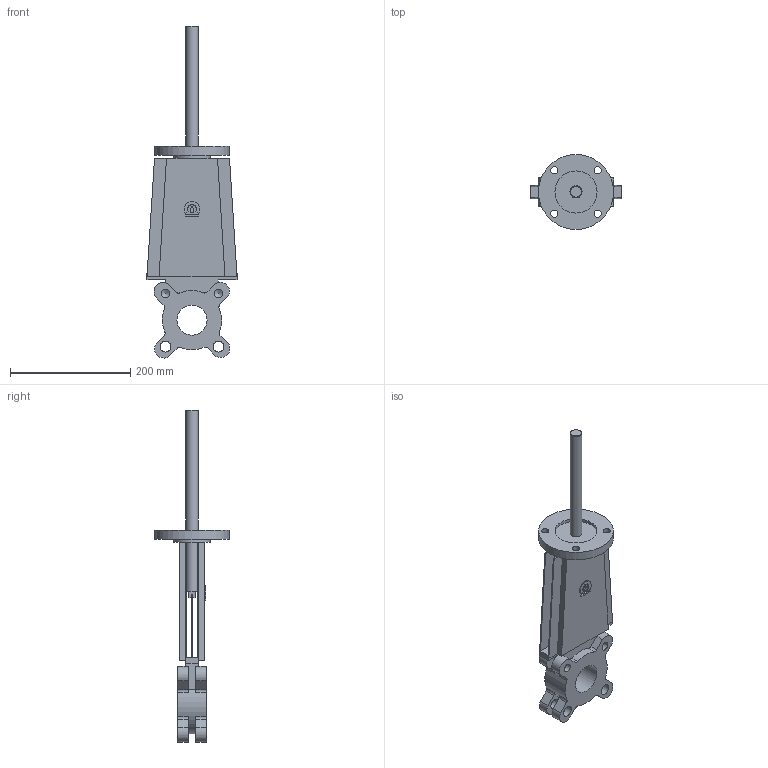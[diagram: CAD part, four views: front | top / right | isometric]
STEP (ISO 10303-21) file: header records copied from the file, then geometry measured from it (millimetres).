
FILE_DESCRIPTION(('STEP AP203'), '1');
FILE_NAME('K21GVA_DN50', '', ('UNSPECIFIED'), ('UNSPECIFIED'), 'ASCON STEP Converter 1.6', 'ASCON Math Kernel', '');
FILE_SCHEMA(('CONFIG_CONTROL_DESIGN'));
Length unit declared in the file: millimetre
Bounding box: 150 x 125 x 553.12 mm (x, y, z)
Volume: 866254.9 mm3; surface area: 265725.2 mm2
Topology: 1 solids, 1 shells, 159 faces, 446 edges, 289 vertices
Faces by surface type: plane 102, cylinder 52, cone 5
Full cylindrical faces by diameter (mm): 12 x4, 13.835 x4, 18 x4, 20 x2, 50 x1, 60 x1, 70 x1, 125 x1
Entity records: 6326 total; most frequent: DIRECTION 872, CARTESIAN_POINT 864, ORIENTED_EDGE 838, EDGE_CURVE 419, AXIS2_PLACEMENT_3D 293, LINE 286, VECTOR 286, VERTEX_POINT 285
